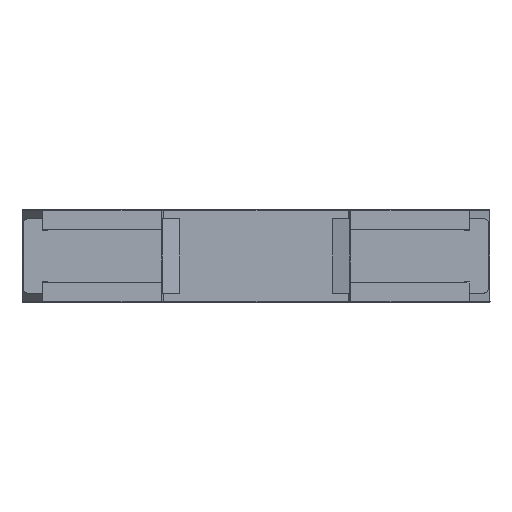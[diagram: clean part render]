
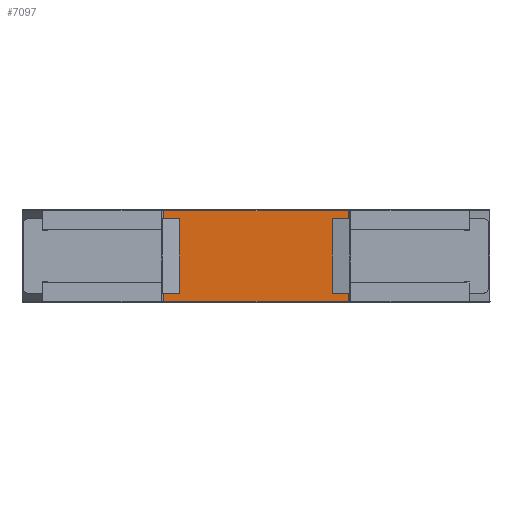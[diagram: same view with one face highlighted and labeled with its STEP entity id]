
A CAD part, front view. The second image highlights one B-rep face of the part: STEP entity #7097.
In plain terms, the highlighted planar face has unit normal (0, -1, 0).
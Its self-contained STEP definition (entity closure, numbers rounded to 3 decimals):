
#14 = DIRECTION ( 'NONE',  ( -1., 0., 0. ) ) ;
#15 = EDGE_LOOP ( 'NONE', ( #4868, #7611, #13670, #8184, #3688, #2643, #4595, #2244, #14728, #8573, #2965, #10030 ) ) ;
#433 = DIRECTION ( 'NONE',  ( -1., 0., 0. ) ) ;
#489 = VERTEX_POINT ( 'NONE', #15058 ) ;
#629 = VERTEX_POINT ( 'NONE', #13365 ) ;
#695 = CARTESIAN_POINT ( 'NONE',  ( -17.75, 0., 0. ) ) ;
#756 = CARTESIAN_POINT ( 'NONE',  ( 17.5, 0., 0. ) ) ;
#794 = EDGE_CURVE ( 'NONE', #2754, #13989, #9816, .T. ) ;
#832 = EDGE_CURVE ( 'NONE', #489, #2754, #8823, .T. ) ;
#1210 = EDGE_CURVE ( 'NONE', #14665, #3557, #14077, .T. ) ;
#1390 = VECTOR ( 'NONE', #1949, 1000. ) ;
#1649 = CARTESIAN_POINT ( 'NONE',  ( 17.5, 0., 7.15 ) ) ;
#1949 = DIRECTION ( 'NONE',  ( 0., 0., -1. ) ) ;
#2039 = DIRECTION ( 'NONE',  ( 0., 0., -1. ) ) ;
#2051 = EDGE_CURVE ( 'NONE', #12840, #8705, #11395, .T. ) ;
#2099 = VECTOR ( 'NONE', #11676, 1000. ) ;
#2244 = ORIENTED_EDGE ( 'NONE', *, *, #4197, .F. ) ;
#2276 = VERTEX_POINT ( 'NONE', #7420 ) ;
#2422 = CARTESIAN_POINT ( 'NONE',  ( 17.75, 0., 7.15 ) ) ;
#2604 = VECTOR ( 'NONE', #14521, 1000. ) ;
#2643 = ORIENTED_EDGE ( 'NONE', *, *, #9328, .F. ) ;
#2754 = VERTEX_POINT ( 'NONE', #13175 ) ;
#2808 = VERTEX_POINT ( 'NONE', #7676 ) ;
#2965 = ORIENTED_EDGE ( 'NONE', *, *, #13684, .F. ) ;
#2971 = DIRECTION ( 'NONE',  ( -1., 0., 0. ) ) ;
#3018 = LINE ( 'NONE', #14773, #12078 ) ;
#3172 = CARTESIAN_POINT ( 'NONE',  ( 16.407, 0., 7.15 ) ) ;
#3424 = EDGE_CURVE ( 'NONE', #12840, #4645, #3799, .T. ) ;
#3505 = VECTOR ( 'NONE', #11046, 1000. ) ;
#3557 = VERTEX_POINT ( 'NONE', #1649 ) ;
#3688 = ORIENTED_EDGE ( 'NONE', *, *, #3424, .T. ) ;
#3799 = LINE ( 'NONE', #6196, #4044 ) ;
#4044 = VECTOR ( 'NONE', #2971, 1000. ) ;
#4175 = VECTOR ( 'NONE', #8751, 1000. ) ;
#4197 = EDGE_CURVE ( 'NONE', #629, #14665, #9289, .T. ) ;
#4252 = EDGE_CURVE ( 'NONE', #489, #7821, #3018, .T. ) ;
#4595 = ORIENTED_EDGE ( 'NONE', *, *, #1210, .F. ) ;
#4645 = VERTEX_POINT ( 'NONE', #13890 ) ;
#4727 = CARTESIAN_POINT ( 'NONE',  ( 0., 0., -8.7 ) ) ;
#4868 = ORIENTED_EDGE ( 'NONE', *, *, #832, .F. ) ;
#4902 = CARTESIAN_POINT ( 'NONE',  ( -17.5, 0., 0. ) ) ;
#5031 = CARTESIAN_POINT ( 'NONE',  ( 17.75, 0., -7.15 ) ) ;
#5610 = EDGE_CURVE ( 'NONE', #629, #2276, #6714, .T. ) ;
#5625 = DIRECTION ( 'NONE',  ( -1., 0., 0. ) ) ;
#5769 = LINE ( 'NONE', #6767, #10291 ) ;
#5960 = LINE ( 'NONE', #4727, #2099 ) ;
#6196 = CARTESIAN_POINT ( 'NONE',  ( 16.407, 0., -7.15 ) ) ;
#6275 = CARTESIAN_POINT ( 'NONE',  ( 0., 0., 8.7 ) ) ;
#6290 = CARTESIAN_POINT ( 'NONE',  ( 17.75, 0., -8.7 ) ) ;
#6638 = DIRECTION ( 'NONE',  ( 0., 0., -1. ) ) ;
#6714 = LINE ( 'NONE', #6275, #4175 ) ;
#6767 = CARTESIAN_POINT ( 'NONE',  ( -16.407, 0., 7.15 ) ) ;
#6826 = CARTESIAN_POINT ( 'NONE',  ( -17.5, 0., 7.15 ) ) ;
#7097 = ADVANCED_FACE ( 'NONE', ( #13253 ), #13389, .F. ) ;
#7153 = AXIS2_PLACEMENT_3D ( 'NONE', #6290, #11015, #433 ) ;
#7420 = CARTESIAN_POINT ( 'NONE',  ( -17.75, 0., 8.7 ) ) ;
#7611 = ORIENTED_EDGE ( 'NONE', *, *, #4252, .T. ) ;
#7676 = CARTESIAN_POINT ( 'NONE',  ( -17.75, 0., 7.15 ) ) ;
#7808 = CARTESIAN_POINT ( 'NONE',  ( 0., 0., -7.15 ) ) ;
#7821 = VERTEX_POINT ( 'NONE', #10846 ) ;
#8184 = ORIENTED_EDGE ( 'NONE', *, *, #2051, .F. ) ;
#8573 = ORIENTED_EDGE ( 'NONE', *, *, #8911, .F. ) ;
#8705 = VERTEX_POINT ( 'NONE', #12644 ) ;
#8751 = DIRECTION ( 'NONE',  ( -1., 0., 0. ) ) ;
#8823 = LINE ( 'NONE', #7808, #14938 ) ;
#8911 = EDGE_CURVE ( 'NONE', #2808, #2276, #9735, .T. ) ;
#8918 = DIRECTION ( 'NONE',  ( 0., 0., -1. ) ) ;
#9227 = VECTOR ( 'NONE', #2039, 1000. ) ;
#9289 = LINE ( 'NONE', #13905, #12560 ) ;
#9328 = EDGE_CURVE ( 'NONE', #3557, #4645, #13635, .T. ) ;
#9735 = LINE ( 'NONE', #695, #3505 ) ;
#9768 = VECTOR ( 'NONE', #14, 1000. ) ;
#9816 = LINE ( 'NONE', #4902, #2604 ) ;
#10030 = ORIENTED_EDGE ( 'NONE', *, *, #794, .F. ) ;
#10291 = VECTOR ( 'NONE', #5625, 1000. ) ;
#10846 = CARTESIAN_POINT ( 'NONE',  ( -17.75, 0., -8.7 ) ) ;
#11015 = DIRECTION ( 'NONE',  ( 0., 1., 0. ) ) ;
#11046 = DIRECTION ( 'NONE',  ( 0., 0., 1. ) ) ;
#11395 = LINE ( 'NONE', #12555, #1390 ) ;
#11676 = DIRECTION ( 'NONE',  ( 1., 0., 0. ) ) ;
#12078 = VECTOR ( 'NONE', #8918, 1000. ) ;
#12555 = CARTESIAN_POINT ( 'NONE',  ( 17.75, 0., 0. ) ) ;
#12560 = VECTOR ( 'NONE', #6638, 1000. ) ;
#12644 = CARTESIAN_POINT ( 'NONE',  ( 17.75, 0., -8.7 ) ) ;
#12678 = EDGE_CURVE ( 'NONE', #7821, #8705, #5960, .T. ) ;
#12840 = VERTEX_POINT ( 'NONE', #5031 ) ;
#13175 = CARTESIAN_POINT ( 'NONE',  ( -17.5, 0., -7.15 ) ) ;
#13253 = FACE_OUTER_BOUND ( 'NONE', #15, .T. ) ;
#13365 = CARTESIAN_POINT ( 'NONE',  ( 17.75, 0., 8.7 ) ) ;
#13389 = PLANE ( 'NONE',  #7153 ) ;
#13436 = DIRECTION ( 'NONE',  ( 1., 0., 0. ) ) ;
#13635 = LINE ( 'NONE', #756, #9227 ) ;
#13670 = ORIENTED_EDGE ( 'NONE', *, *, #12678, .T. ) ;
#13684 = EDGE_CURVE ( 'NONE', #13989, #2808, #5769, .T. ) ;
#13890 = CARTESIAN_POINT ( 'NONE',  ( 17.5, 0., -7.15 ) ) ;
#13905 = CARTESIAN_POINT ( 'NONE',  ( 17.75, 0., 0. ) ) ;
#13989 = VERTEX_POINT ( 'NONE', #6826 ) ;
#14077 = LINE ( 'NONE', #3172, #9768 ) ;
#14521 = DIRECTION ( 'NONE',  ( 0., 0., 1. ) ) ;
#14665 = VERTEX_POINT ( 'NONE', #2422 ) ;
#14728 = ORIENTED_EDGE ( 'NONE', *, *, #5610, .T. ) ;
#14773 = CARTESIAN_POINT ( 'NONE',  ( -17.75, 0., -7.925 ) ) ;
#14938 = VECTOR ( 'NONE', #13436, 1000. ) ;
#15058 = CARTESIAN_POINT ( 'NONE',  ( -17.75, 0., -7.15 ) ) ;
